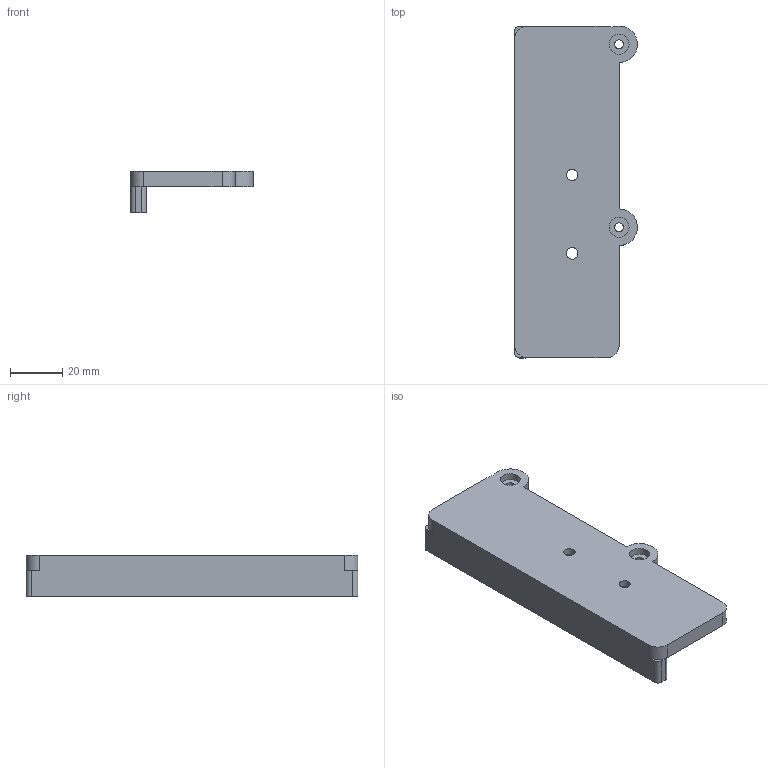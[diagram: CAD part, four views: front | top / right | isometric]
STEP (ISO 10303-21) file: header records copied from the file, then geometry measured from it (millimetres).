
FILE_DESCRIPTION(('Open CASCADE Model'),'2;1');
FILE_NAME('Open CASCADE Shape Model','2026-10-04T18:41:27',('Author'),( 'Open CASCADE'),'Open CASCADE STEP processor 7.8','Open CASCADE 7.8' ,'Unknown');
FILE_SCHEMA(('AUTOMOTIVE_DESIGN { 1 0 10303 214 1 1 1 1 }'));
Length unit declared in the file: millimetre
Products named in the file (1): Open CASCADE STEP translator 7.8 2
Bounding box: 47 x 127 x 16 mm (x, y, z)
Volume: 38190.8 mm3; surface area: 15486.2 mm2
Topology: 1 solids, 1 shells, 45 faces, 115 edges, 76 vertices
Faces by surface type: plane 29, cylinder 16
Full cylindrical faces by diameter (mm): 3.4 x2, 4.4 x2, 7.6 x2
Entity records: 2968 total; most frequent: CARTESIAN_POINT 623, DIRECTION 447, LINE 273, VECTOR 273, ORIENTED_EDGE 230, PCURVE 230, DEFINITIONAL_REPRESENTATION 230, EDGE_CURVE 115
